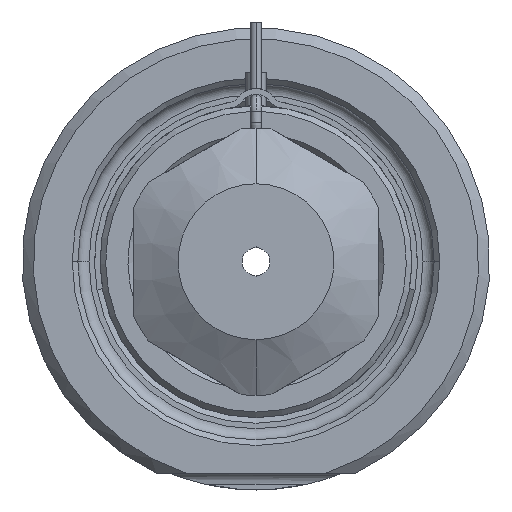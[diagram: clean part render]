
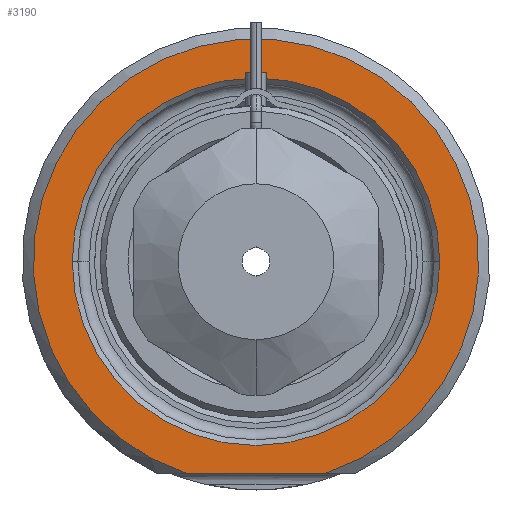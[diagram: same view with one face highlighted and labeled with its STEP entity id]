
A CAD part, front view. The second image highlights one B-rep face of the part: STEP entity #3190.
In plain terms, the highlighted planar face has unit normal (0, -1, 0).
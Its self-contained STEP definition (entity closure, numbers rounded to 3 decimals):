
#1=DIRECTION('',(1.,0.,0.));
#2=VECTOR('',#1,12.49);
#3=CARTESIAN_POINT('',(-6.245,0.,-19.));
#4=LINE('',#3,#2);
#5=CARTESIAN_POINT('',(0.,0.,0.));
#6=DIRECTION('',(0.,1.,0.));
#7=DIRECTION('',(-1.,0.,0.));
#8=AXIS2_PLACEMENT_3D('',#5,#6,#7);
#10=CARTESIAN_POINT('',(0.,0.,0.));
#11=DIRECTION('',(0.,1.,0.));
#12=DIRECTION('',(1.,0.,0.));
#13=AXIS2_PLACEMENT_3D('',#10,#11,#12);
#119=CARTESIAN_POINT('',(0.,0.,0.));
#120=DIRECTION('',(0.,-1.,0.));
#121=DIRECTION('',(0.312,0.,-0.95));
#122=AXIS2_PLACEMENT_3D('',#119,#120,#121);
#2648=CARTESIAN_POINT('',(-16.5,0.,0.));
#2649=CARTESIAN_POINT('',(16.5,0.,0.));
#2650=VERTEX_POINT('',#2648);
#2651=VERTEX_POINT('',#2649);
#2688=CARTESIAN_POINT('',(-6.245,0.,-19.));
#2689=CARTESIAN_POINT('',(6.245,0.,-19.));
#2690=VERTEX_POINT('',#2688);
#2691=VERTEX_POINT('',#2689);
#3173=CARTESIAN_POINT('',(0.,0.,0.));
#3174=DIRECTION('',(0.,-1.,0.));
#3175=DIRECTION('',(1.,0.,0.));
#3176=AXIS2_PLACEMENT_3D('',#3173,#3174,#3175);
#3177=PLANE('',#3176);
#3179=ORIENTED_EDGE('',*,*,#3178,.F.);
#3181=ORIENTED_EDGE('',*,*,#3180,.F.);
#3182=EDGE_LOOP('',(#3179,#3181));
#3183=FACE_OUTER_BOUND('',#3182,.F.);
#3185=ORIENTED_EDGE('',*,*,#3184,.F.);
#3187=ORIENTED_EDGE('',*,*,#3186,.F.);
#3188=EDGE_LOOP('',(#3185,#3187));
#3189=FACE_BOUND('',#3188,.F.);
#3190=ADVANCED_FACE('',(#3183,#3189),#3177,.T.);
#9=CIRCLE('',#8,16.5);
#14=CIRCLE('',#13,16.5);
#123=CIRCLE('',#122,20.);
#3178=EDGE_CURVE('',#2690,#2691,#4,.T.);
#3180=EDGE_CURVE('',#2691,#2690,#123,.T.);
#3184=EDGE_CURVE('',#2650,#2651,#9,.T.);
#3186=EDGE_CURVE('',#2651,#2650,#14,.T.);
